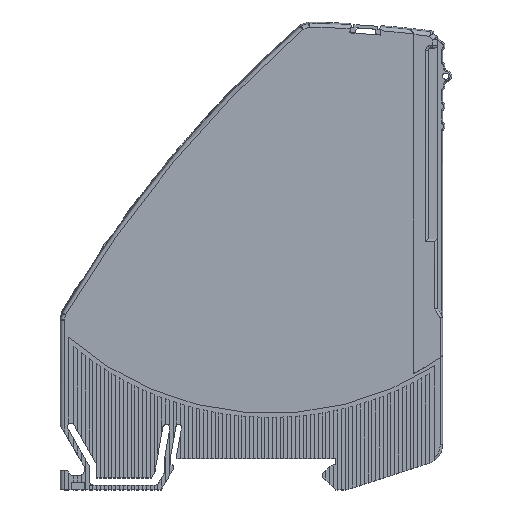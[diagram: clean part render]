
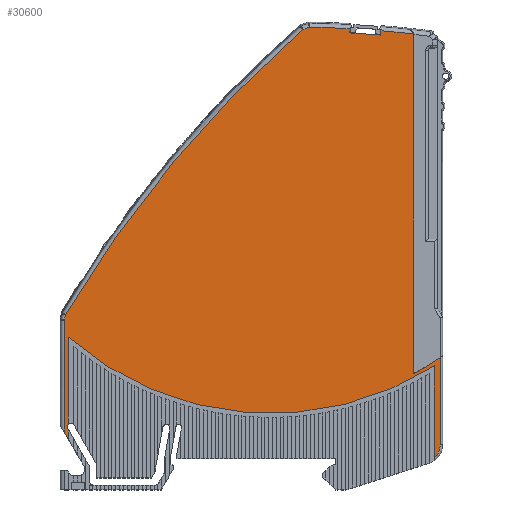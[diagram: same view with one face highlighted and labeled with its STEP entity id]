
A CAD part, top view. The second image highlights one B-rep face of the part: STEP entity #30600.
In plain terms, the highlighted planar face has unit normal (0, 0, 1).
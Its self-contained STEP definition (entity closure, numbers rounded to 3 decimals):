
#2282=CARTESIAN_POINT('',(-37.748,6.7,6.15));
#2283=DIRECTION('',(0.,0.,-1.));
#2284=DIRECTION('',(-0.866,-0.5,0.));
#2285=AXIS2_PLACEMENT_3D('',#2282,#2283,#2284);
#5643=CARTESIAN_POINT('',(38.3,0.268,6.15));
#5649=DIRECTION('',(0.,-1.,0.));
#5650=VECTOR('',#5649,19.2);
#5651=CARTESIAN_POINT('',(38.3,19.468,6.15));
#5652=LINE('',#5651,#5650);
#5657=CARTESIAN_POINT('',(36.,2.906,6.15));
#5658=DIRECTION('',(0.,0.,1.));
#5659=DIRECTION('',(0.657,-0.754,0.));
#5660=AXIS2_PLACEMENT_3D('',#5657,#5658,#5659);
#5662=CARTESIAN_POINT('',(4.,73.5,6.15));
#5663=DIRECTION('',(0.,0.,1.));
#5664=DIRECTION('',(-0.661,-0.75,0.));
#5665=AXIS2_PLACEMENT_3D('',#5662,#5663,#5664);
#5667=DIRECTION('',(0.5,-0.866,0.));
#5668=VECTOR('',#5667,0.282);
#5669=CARTESIAN_POINT('',(-38.441,6.3,6.15));
#5670=LINE('',#5669,#5668);
#5671=DIRECTION('',(0.5,-0.866,0.));
#5672=VECTOR('',#5671,1.8);
#5673=CARTESIAN_POINT('',(-39.2,5.614,6.15));
#5674=LINE('',#5673,#5672);
#5675=DIRECTION('',(0.,1.,0.));
#5676=VECTOR('',#5675,23.431);
#5677=CARTESIAN_POINT('',(-39.2,5.614,6.15));
#5678=LINE('',#5677,#5676);
#5679=CARTESIAN_POINT('',(-39.2,29.046,6.15));
#5680=CARTESIAN_POINT('',(-39.166,29.169,6.15));
#5681=CARTESIAN_POINT('',(-39.099,29.415,6.15));
#5682=CARTESIAN_POINT('',(-38.998,29.785,6.15));
#5683=CARTESIAN_POINT('',(-38.931,30.032,6.15));
#5684=CARTESIAN_POINT('',(-38.897,30.156,6.15));
#5686=CARTESIAN_POINT('',(173.121,-95.689,6.15));
#5687=DIRECTION('',(0.,0.,-1.));
#5688=DIRECTION('',(-0.86,0.51,0.));
#5689=AXIS2_PLACEMENT_3D('',#5686,#5687,#5688);
#5691=CARTESIAN_POINT('',(10.744,89.843,6.15));
#5692=CARTESIAN_POINT('',(11.212,90.014,6.15));
#5693=CARTESIAN_POINT('',(11.681,90.184,6.15));
#5694=CARTESIAN_POINT('',(12.15,90.355,6.15));
#5696=CARTESIAN_POINT('',(7.,-158.5,6.15));
#5697=DIRECTION('',(0.,0.,-1.));
#5698=DIRECTION('',(0.021,1.,0.));
#5699=AXIS2_PLACEMENT_3D('',#5696,#5697,#5698);
#5701=DIRECTION('',(-0.07,-0.998,0.));
#5702=VECTOR('',#5701,0.881);
#5703=CARTESIAN_POINT('',(20.66,90.033,6.15));
#5704=LINE('',#5703,#5702);
#5705=DIRECTION('',(0.998,-0.07,0.));
#5706=VECTOR('',#5705,6.46);
#5707=CARTESIAN_POINT('',(20.598,89.154,6.15));
#5708=LINE('',#5707,#5706);
#5709=DIRECTION('',(0.07,0.998,0.));
#5710=VECTOR('',#5709,0.894);
#5711=CARTESIAN_POINT('',(27.042,88.704,6.15));
#5712=LINE('',#5711,#5710);
#5713=CARTESIAN_POINT('',(7.,-158.5,6.15));
#5714=DIRECTION('',(0.,0.,-1.));
#5715=DIRECTION('',(0.081,0.997,0.));
#5716=AXIS2_PLACEMENT_3D('',#5713,#5714,#5715);
#5718=DIRECTION('',(0.,-1.,0.));
#5719=VECTOR('',#5718,71.177);
#5720=CARTESIAN_POINT('',(33.827,88.958,6.15));
#5721=LINE('',#5720,#5719);
#5722=DIRECTION('',(0.,1.,0.));
#5723=VECTOR('',#5722,18.306);
#5724=CARTESIAN_POINT('',(39.5,2.906,6.15));
#5725=LINE('',#5724,#5723);
#5726=DIRECTION('',(0.,1.,0.));
#5727=VECTOR('',#5726,18.192);
#5728=CARTESIAN_POINT('',(-38.3,7.279,6.15));
#5729=LINE('',#5728,#5727);
#5746=DIRECTION('',(0.,1.,0.));
#5747=VECTOR('',#5746,2.);
#5748=CARTESIAN_POINT('',(-38.3,4.056,6.15));
#5749=LINE('',#5748,#5747);
#10216=CARTESIAN_POINT('',(4.,73.5,6.15));
#10217=DIRECTION('',(0.,0.,-1.));
#10218=DIRECTION('',(0.562,-0.827,0.));
#10219=AXIS2_PLACEMENT_3D('',#10216,#10217,#10218);
#10280=CARTESIAN_POINT('',(33.827,17.781,6.15));
#19191=CARTESIAN_POINT('',(-38.3,25.472,6.15));
#19192=CARTESIAN_POINT('',(38.3,19.468,6.15));
#19193=VERTEX_POINT('',#19191);
#19194=VERTEX_POINT('',#19192);
#19939=CARTESIAN_POINT('',(-38.3,4.056,6.15));
#19940=VERTEX_POINT('',#19939);
#20491=CARTESIAN_POINT('',(-38.3,6.056,6.15));
#20492=VERTEX_POINT('',#20491);
#20553=CARTESIAN_POINT('',(20.598,89.154,6.15));
#20554=CARTESIAN_POINT('',(27.042,88.704,6.15));
#20555=VERTEX_POINT('',#20553);
#20556=VERTEX_POINT('',#20554);
#20818=CARTESIAN_POINT('',(12.15,90.355,6.15));
#20819=CARTESIAN_POINT('',(20.66,90.033,6.15));
#20820=VERTEX_POINT('',#20818);
#20821=VERTEX_POINT('',#20819);
#20828=VERTEX_POINT('',#5691);
#20831=CARTESIAN_POINT('',(-38.897,30.156,6.15));
#20832=VERTEX_POINT('',#20831);
#20838=VERTEX_POINT('',#5679);
#20841=CARTESIAN_POINT('',(-39.2,5.614,6.15));
#20842=VERTEX_POINT('',#20841);
#20855=CARTESIAN_POINT('',(27.105,89.595,6.15));
#20856=VERTEX_POINT('',#20855);
#20869=VERTEX_POINT('',#5643);
#20870=CARTESIAN_POINT('',(39.5,2.906,6.15));
#20871=VERTEX_POINT('',#20870);
#20878=CARTESIAN_POINT('',(39.5,21.212,6.15));
#20879=VERTEX_POINT('',#20878);
#20907=VERTEX_POINT('',#10280);
#20918=CARTESIAN_POINT('',(33.827,88.958,6.15));
#20919=VERTEX_POINT('',#20918);
#21763=CARTESIAN_POINT('',(-38.3,7.279,6.15));
#21765=VERTEX_POINT('',#21763);
#21773=CARTESIAN_POINT('',(-38.441,6.3,6.15));
#21774=VERTEX_POINT('',#21773);
#30559=CARTESIAN_POINT('',(0.,0.,6.15));
#30560=DIRECTION('',(0.,0.,1.));
#30561=DIRECTION('',(1.,0.,0.));
#30562=AXIS2_PLACEMENT_3D('',#30559,#30560,#30561);
#30563=PLANE('',#30562);
#30564=ORIENTED_EDGE('',*,*,#30522,.F.);
#30565=ORIENTED_EDGE('',*,*,#30540,.F.);
#30566=ORIENTED_EDGE('',*,*,#30550,.F.);
#30568=ORIENTED_EDGE('',*,*,#30567,.F.);
#30569=ORIENTED_EDGE('',*,*,#26190,.F.);
#30570=ORIENTED_EDGE('',*,*,#26248,.T.);
#30572=ORIENTED_EDGE('',*,*,#30571,.F.);
#30573=ORIENTED_EDGE('',*,*,#24599,.F.);
#30575=ORIENTED_EDGE('',*,*,#30574,.T.);
#30577=ORIENTED_EDGE('',*,*,#30576,.T.);
#30579=ORIENTED_EDGE('',*,*,#30578,.T.);
#30581=ORIENTED_EDGE('',*,*,#30580,.T.);
#30583=ORIENTED_EDGE('',*,*,#30582,.T.);
#30585=ORIENTED_EDGE('',*,*,#30584,.T.);
#30587=ORIENTED_EDGE('',*,*,#30586,.T.);
#30589=ORIENTED_EDGE('',*,*,#30588,.T.);
#30591=ORIENTED_EDGE('',*,*,#30590,.T.);
#30593=ORIENTED_EDGE('',*,*,#30592,.T.);
#30595=ORIENTED_EDGE('',*,*,#30594,.F.);
#30597=ORIENTED_EDGE('',*,*,#30596,.F.);
#30598=EDGE_LOOP('',(#30564,#30565,#30566,#30568,#30569,#30570,#30572,#30573,
#30575,#30577,#30579,#30581,#30583,#30585,#30587,#30589,#30591,#30593,#30595,
#30597));
#30599=FACE_OUTER_BOUND('',#30598,.F.);
#2286=CIRCLE('',#2285,0.8);
#5661=CIRCLE('',#5660,3.5);
#5666=CIRCLE('',#5665,64.);
#5685=B_SPLINE_CURVE_WITH_KNOTS('',3,(#5679,#5680,#5681,#5682,#5683,#5684),
.UNSPECIFIED.,.F.,.F.,(4,1,1,4),(0.,0.333,0.667,1.),
.UNSPECIFIED.);
#5690=CIRCLE('',#5689,246.553);
#5695=B_SPLINE_CURVE_WITH_KNOTS('',3,(#5691,#5692,#5693,#5694),.UNSPECIFIED.,
.F.,.F.,(4,4),(0.,1.),.UNSPECIFIED.);
#5700=CIRCLE('',#5699,248.908);
#5717=CIRCLE('',#5716,248.908);
#10220=CIRCLE('',#10219,63.2);
#24599=EDGE_CURVE('',#20842,#19940,#5674,.T.);
#26190=EDGE_CURVE('',#21774,#21765,#2286,.T.);
#26248=EDGE_CURVE('',#21774,#20492,#5670,.T.);
#30522=EDGE_CURVE('',#20869,#20871,#5661,.T.);
#30540=EDGE_CURVE('',#19194,#20869,#5652,.T.);
#30550=EDGE_CURVE('',#19193,#19194,#5666,.T.);
#30567=EDGE_CURVE('',#21765,#19193,#5729,.T.);
#30571=EDGE_CURVE('',#19940,#20492,#5749,.T.);
#30574=EDGE_CURVE('',#20842,#20838,#5678,.T.);
#30576=EDGE_CURVE('',#20838,#20832,#5685,.T.);
#30578=EDGE_CURVE('',#20832,#20828,#5690,.T.);
#30580=EDGE_CURVE('',#20828,#20820,#5695,.T.);
#30582=EDGE_CURVE('',#20820,#20821,#5700,.T.);
#30584=EDGE_CURVE('',#20821,#20555,#5704,.T.);
#30586=EDGE_CURVE('',#20555,#20556,#5708,.T.);
#30588=EDGE_CURVE('',#20556,#20856,#5712,.T.);
#30590=EDGE_CURVE('',#20856,#20919,#5717,.T.);
#30592=EDGE_CURVE('',#20919,#20907,#5721,.T.);
#30594=EDGE_CURVE('',#20879,#20907,#10220,.T.);
#30596=EDGE_CURVE('',#20871,#20879,#5725,.T.);
#30600=ADVANCED_FACE('',(#30599),#30563,.T.);
